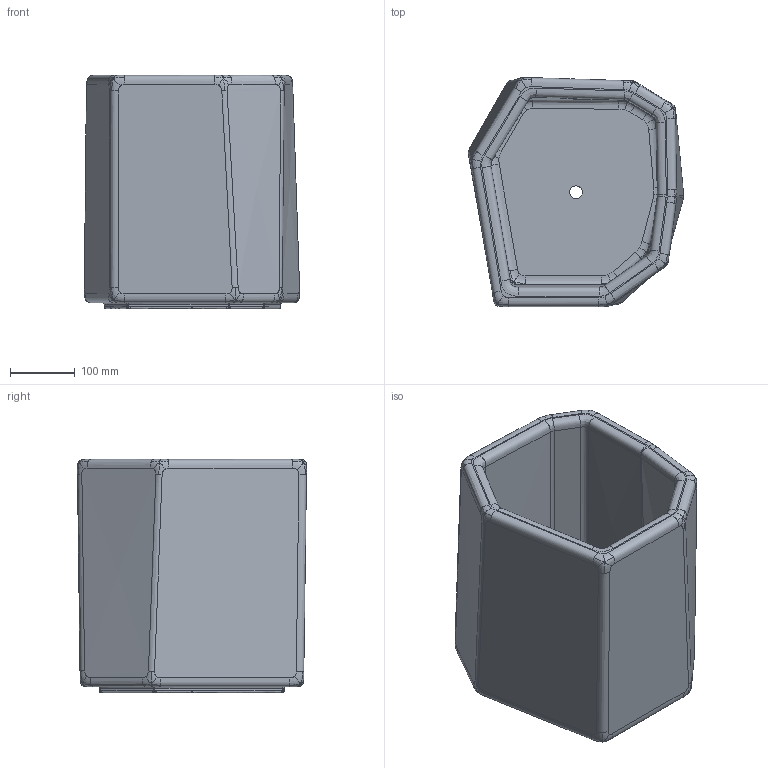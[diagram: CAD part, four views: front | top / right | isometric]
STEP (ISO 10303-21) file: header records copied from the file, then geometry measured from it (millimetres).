
FILE_DESCRIPTION(/* description */ (''),/* implementation_level */ '2;1');
FILE_NAME(/* name */ 'Staffa Planter_H36_3D',/* time_stamp */ '2026-02-02T14:51:35+01:00',/* author */ (''),/* organization */ (''),/* preprocessor_version */ 'ST-DEVELOPER v19.2',/* originating_system */ 'Rhino 8.27',/* authorisation */ '');
FILE_SCHEMA (('CONFIG_CONTROL_DESIGN'));
Length unit declared in the file: millimetre
Products named in the file (1): Document
Bounding box: 332.32 x 353.62 x 360.03 mm (x, y, z)
Volume: 13350612 mm3; surface area: 905390.3 mm2
Topology: 1 solids, 1 shells, 411 faces, 1053 edges, 646 vertices
Faces by surface type: bspline 371, plane 28, cylinder 12
Entity records: 42288 total; most frequent: CARTESIAN_POINT 35605, ORIENTED_EDGE 2106, EDGE_CURVE 1053, B_SPLINE_CURVE_WITH_KNOTS 1035, VERTEX_POINT 646, EDGE_LOOP 415, ADVANCED_FACE 411, FACE_OUTER_BOUND 411
